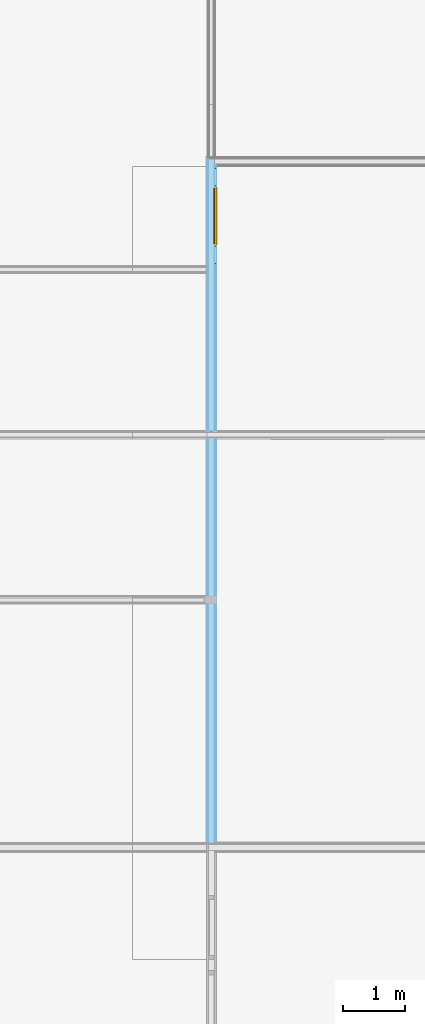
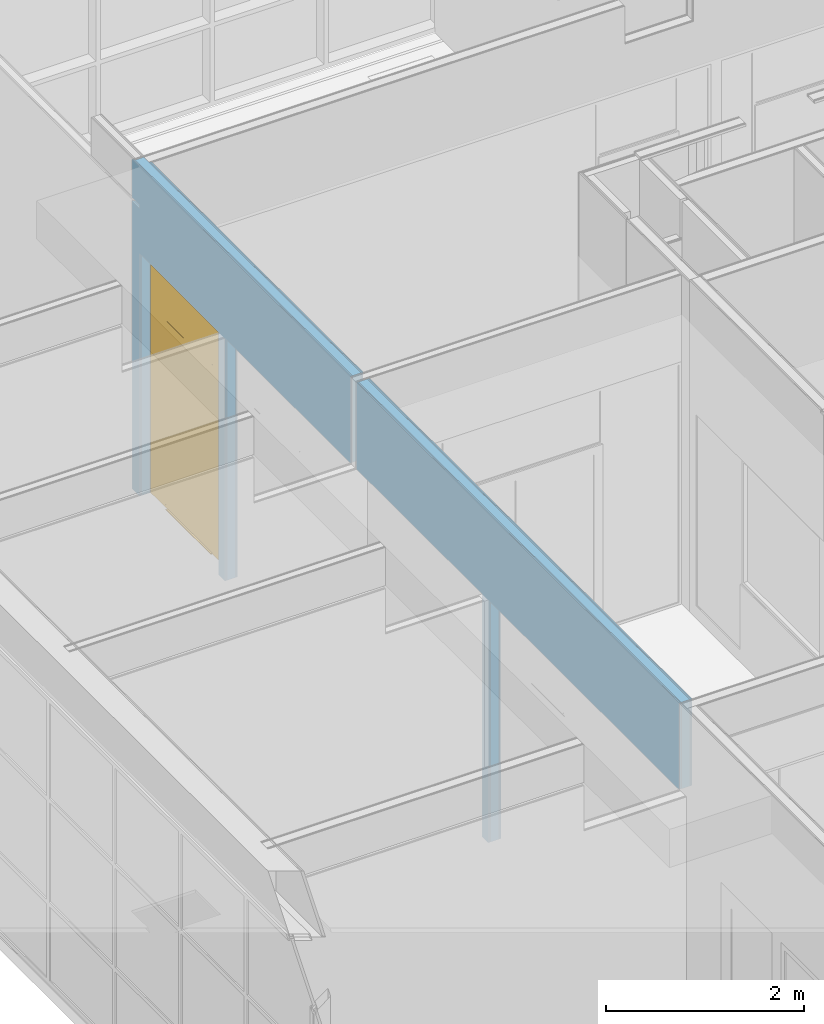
# One storey, part 38 of 109: 1 door, 4 openings, 1 element without a shape of its own, plus 5 elements that do not belong to this part.
"""IFC2X3 building model written with IfcOpenShell, lengths in millimetres."""

from ifc_helpers import new_model, entity, si_unit, converted_unit, derived_unit, money_unit, direction, frame, origin_with_axes, place, context, subcontext, project, spatial, open_shell, faceted_brep, surface_model, material, type_object, element, fill, aggregate, save


model = new_model("IFC2X3")

# Units and contexts
model_context = context("Model", 3, precision=0.01, world=origin_with_axes(), true_north=direction((0.0, 1.0)))
body_context = subcontext(model_context, "Body", "Model", "MODEL_VIEW")
ifc_project = project(units=[si_unit("LENGTHUNIT", "METRE", prefix="MILLI"), si_unit("AREAUNIT", "SQUARE_METRE"), si_unit("VOLUMEUNIT", "CUBIC_METRE"), converted_unit("PLANEANGLEUNIT", "DEGREE", entity("IfcPlaneAngleMeasure", 0.0174532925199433), si_unit("PLANEANGLEUNIT", "RADIAN"), dimensions=[0, 0, 0, 0, 0, 0, 0]), money_unit("EUR"), converted_unit("TIMEUNIT", "Year", entity("IfcTimeMeasure", 31557600.0), si_unit("TIMEUNIT", "SECOND"), dimensions=[0, 0, 1, 0, 0, 0, 0]), si_unit("MASSUNIT", "GRAM", prefix="KILO"), si_unit("THERMODYNAMICTEMPERATUREUNIT", "DEGREE_CELSIUS"), si_unit("LUMINOUSINTENSITYUNIT", "LUMEN"), si_unit("ENERGYUNIT", "JOULE", prefix="MEGA"), derived_unit("THERMALCONDUCTANCEUNIT", [(si_unit("POWERUNIT", "WATT"), 1), (si_unit("LENGTHUNIT", "METRE"), -1), (si_unit("THERMODYNAMICTEMPERATUREUNIT", "KELVIN"), -1)]), derived_unit("SPECIFICHEATCAPACITYUNIT", [(si_unit("ENERGYUNIT", "JOULE"), 1), (si_unit("MASSUNIT", "GRAM", prefix="KILO"), -1), (si_unit("THERMODYNAMICTEMPERATUREUNIT", "KELVIN"), -1)]), derived_unit("MASSDENSITYUNIT", [(si_unit("MASSUNIT", "GRAM", prefix="KILO"), 1), (si_unit("VOLUMEUNIT", "CUBIC_METRE"), -1)])], contexts=[model_context])

# Site, building, storey
site_placement = place(None, origin_with_axes())
site = spatial("IfcSite", under=ifc_project, at=site_placement, Name="<site naam>", CompositionType="ELEMENT")
building_placement = place(site_placement, origin_with_axes())
building = spatial("IfcBuilding", under=site, at=building_placement, Name="<Naam gebouw>", CompositionType="ELEMENT")
storey_placement = place(building_placement, origin_with_axes())
storey = spatial("IfcBuildingStorey", under=building, at=storey_placement, Name="00 Begane grond", CompositionType="ELEMENT", Elevation=0.0)

# Door
door_style = type_object("IfcDoorStyle", Name="D1 bl zl2 27", ConstructionType="NOTDEFINED", OperationType="USERDEFINED", ParameterTakesPrecedence=False, Sizeable=False)
wall_placement = place(storey_placement, frame((-3999.999999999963, 8075.000000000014, 0.0), z_axis=(0.0, 0.0, 1.0), x_axis=(0.0, 1.0, 0.0)))
opening_4_placement = place(wall_placement, frame((10122.91666666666, 0.0, 0.0), z_axis=(0.0, 0.0, 1.0), x_axis=(1.0, 0.0, 0.0)))
door_placement = place(opening_4_placement, frame((802.0833333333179, 0.0, 0.0), z_axis=(0.0, 0.0, 1.0), x_axis=(-1.0, 0.0, 0.0)))
door = element("IfcDoor", 1, at=door_placement, inside=storey, type_object=door_style, Name="22_BI-F-03_305", ObjectType="DOOR", OverallHeight=3000.0, OverallWidth=1604.17, context=body_context, shape_type="SurfaceModel", body=[
    faceted_brep([(335.1003012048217, 35.00000000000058, 0.0), (335.1003012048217, 35.00000000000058, 12.0), (352.1003012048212, 35.00000000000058, 12.0), (352.1003012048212, 35.00000000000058, 0.0), (1269.100301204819, 35.00000000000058, 0.0), (1269.100301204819, 35.00000000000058, 12.0), (1252.10030120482, 35.00000000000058, 12.0), (1252.10030120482, 55.0000000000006, 12.0), (352.1003012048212, 55.0000000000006, 12.0), (352.1003012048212, 55.0000000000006, 0.0), (1252.10030120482, 55.0000000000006, 0.0), (1252.10030120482, 35.00000000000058, 0.0)], [[[0, 1, 2, 3]], [[4, 5, 1, 0]], [[1, 5, 6, 7, 8, 2]], [[3, 2, 8, 9]], [[0, 3, 9, 10, 11, 4]], [[11, 6, 5, 4]], [[10, 7, 6, 11]], [[9, 8, 7, 10]]]),
    faceted_brep([(0.0, 75.00000000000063, 0.0), (33.00000000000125, 75.00000000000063, 0.0), (33.00000000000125, 55.0000000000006, 0.0), (0.0, 55.0000000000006, 0.0), (0.0, 75.00000000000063, 2967.0), (33.00000000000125, 75.00000000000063, 2967.0), (33.00000000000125, 75.00000000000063, 33.0), (33.00000000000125, 55.0000000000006, 33.0), (33.00000000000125, 55.0000000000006, 2967.0), (0.0, 55.0000000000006, 2967.0)], [[[0, 1, 2, 3]], [[0, 4, 5, 6, 1]], [[1, 6, 7, 2]], [[3, 2, 7, 8, 9]], [[4, 0, 3, 9]], [[5, 4, 9, 8]], [[6, 5, 8, 7]]]),
    faceted_brep([(335.1003012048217, 55.0000000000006, 0.0), (335.1003012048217, 55.0000000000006, 2317.0), (352.1003012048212, 55.0000000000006, 2317.0), (352.1003012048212, 55.0000000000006, 2333.0), (352.1003012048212, 55.0000000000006, 2967.0), (310.1003012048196, 55.0000000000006, 2967.0), (310.1003012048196, 55.0000000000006, 32.99999999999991), (310.1003012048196, 55.0000000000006, 0.0), (335.1003012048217, 75.00000000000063, 0.0), (335.1003012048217, 75.00000000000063, 2317.0), (352.1003012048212, 75.00000000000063, 2317.0), (352.1003012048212, 75.00000000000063, 2333.0), (352.1003012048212, 75.00000000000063, 2967.0), (310.1003012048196, 75.00000000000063, 2967.0), (310.1003012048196, 75.00000000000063, 32.99999999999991), (310.1003012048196, 75.00000000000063, 0.0)], [[[0, 1, 2, 3, 4, 5, 6, 7]], [[1, 0, 8, 9]], [[10, 2, 1, 9]], [[2, 10, 11, 3]], [[12, 4, 3, 11]], [[13, 5, 4, 12]], [[14, 6, 5, 13]], [[15, 7, 6, 14]], [[8, 0, 7, 15]], [[9, 8, 15, 14, 13, 12, 11, 10]]]),
    faceted_brep([(33.00000000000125, 75.00000000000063, 33.0), (33.00000000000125, 75.00000000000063, 0.0), (33.00000000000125, 55.0000000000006, 0.0), (33.00000000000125, 55.0000000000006, 33.0), (310.1003012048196, 75.00000000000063, 33.0), (310.1003012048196, 75.00000000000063, 0.0), (310.1003012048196, 55.0000000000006, 0.0), (310.1003012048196, 55.0000000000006, 33.0)], [[[0, 1, 2, 3]], [[0, 4, 5, 1]], [[1, 5, 6, 2]], [[3, 2, 6, 7]], [[4, 0, 3, 7]], [[5, 4, 7, 6]]]),
    faceted_brep([(1604.166666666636, 75.00000000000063, 0.0), (1604.166666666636, 75.00000000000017, 2967.0), (1604.166666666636, 55.00000000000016, 2967.0), (1604.166666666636, 55.0000000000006, 0.0), (1571.166666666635, 75.00000000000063, 0.0), (1571.166666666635, 75.00000000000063, 33.0), (1571.166666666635, 75.00000000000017, 2967.0), (1571.166666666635, 55.00000000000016, 2967.0), (1571.166666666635, 55.0000000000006, 33.0), (1571.166666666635, 55.0000000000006, 0.0)], [[[0, 1, 2, 3]], [[0, 4, 5, 6, 1]], [[1, 6, 7, 2]], [[3, 2, 7, 8, 9]], [[4, 0, 3, 9]], [[5, 4, 9, 8]], [[6, 5, 8, 7]]]),
    faceted_brep([(1269.100301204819, 55.0000000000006, 2317.0), (1269.100301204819, 55.0000000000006, 0.0), (1294.100301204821, 55.0000000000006, 0.0), (1294.100301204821, 55.0000000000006, 32.99999999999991), (1294.100301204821, 55.00000000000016, 2967.0), (1252.10030120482, 55.00000000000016, 2967.0), (1252.10030120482, 55.0000000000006, 2333.0), (1252.10030120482, 55.0000000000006, 2317.0), (1269.100301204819, 75.00000000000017, 2317.0), (1269.100301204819, 75.00000000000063, 0.0), (1294.100301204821, 75.00000000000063, 0.0), (1294.100301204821, 75.00000000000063, 32.99999999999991), (1294.100301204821, 75.00000000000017, 2967.0), (1252.10030120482, 75.00000000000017, 2967.0), (1252.10030120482, 75.00000000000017, 2333.0), (1252.10030120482, 75.00000000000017, 2317.0)], [[[0, 1, 2, 3, 4, 5, 6, 7]], [[1, 0, 8, 9]], [[1, 9, 10, 2]], [[11, 3, 2, 10]], [[12, 4, 3, 11]], [[13, 5, 4, 12]], [[14, 6, 5, 13]], [[15, 7, 6, 14]], [[0, 7, 15, 8]], [[8, 15, 14, 13, 12, 11, 10, 9]]]),
    faceted_brep([(1294.100301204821, 75.00000000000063, 33.0), (1294.100301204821, 75.00000000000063, 0.0), (1294.100301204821, 55.0000000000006, 0.0), (1294.100301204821, 55.0000000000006, 33.0), (1571.166666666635, 75.00000000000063, 33.0), (1571.166666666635, 75.00000000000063, 0.0), (1571.166666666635, 55.0000000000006, 0.0), (1571.166666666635, 55.0000000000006, 33.0)], [[[0, 1, 2, 3]], [[0, 4, 5, 1]], [[1, 5, 6, 2]], [[3, 2, 6, 7]], [[4, 0, 3, 7]], [[5, 4, 7, 6]]]),
    faceted_brep([(0.0, 75.00000000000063, 3000.0), (0.0, 75.00000000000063, 2967.0), (0.0, 55.0000000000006, 2967.0), (0.0, 55.0000000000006, 3000.0), (1604.166666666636, 75.00000000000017, 3000.0), (1604.166666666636, 75.00000000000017, 2967.0), (1571.166666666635, 75.00000000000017, 2967.0), (1294.100301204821, 75.00000000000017, 2967.0), (1252.10030120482, 75.00000000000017, 2967.0), (352.1003012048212, 75.00000000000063, 2967.0), (310.1003012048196, 75.00000000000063, 2967.0), (33.00000000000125, 75.00000000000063, 2967.0), (33.00000000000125, 55.0000000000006, 2967.0), (310.1003012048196, 55.0000000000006, 2967.0), (352.1003012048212, 55.0000000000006, 2967.0), (1252.10030120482, 55.00000000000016, 2967.0), (1294.100301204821, 55.00000000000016, 2967.0), (1571.166666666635, 55.00000000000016, 2967.0), (1604.166666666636, 55.00000000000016, 2967.0), (1604.166666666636, 55.00000000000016, 3000.0)], [[[0, 1, 2, 3]], [[0, 4, 5, 6, 7, 8, 9, 10, 11, 1]], [[1, 11, 12, 2]], [[3, 2, 12, 13, 14, 15, 16, 17, 18, 19]], [[4, 0, 3, 19]], [[5, 4, 19, 18]], [[6, 5, 18, 17]], [[7, 6, 17, 16]], [[8, 7, 16, 15]], [[9, 8, 15, 14]], [[10, 9, 14, 13]], [[11, 10, 13, 12]]]),
    faceted_brep([(352.1003012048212, 55.0000000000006, 2317.0), (1252.10030120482, 55.0000000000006, 2317.0), (1252.10030120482, 55.0000000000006, 2333.0), (352.1003012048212, 55.0000000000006, 2333.0), (1252.10030120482, 75.00000000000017, 2317.0), (352.1003012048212, 75.00000000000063, 2317.0), (1252.10030120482, 75.00000000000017, 2333.0), (352.1003012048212, 75.00000000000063, 2333.0)], [[[0, 1, 2, 3]], [[4, 1, 0, 5]], [[1, 4, 6, 2]], [[7, 3, 2, 6]], [[5, 0, 3, 7]], [[4, 5, 7, 6]]]),
    faceted_brep([(1269.100301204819, 93.00000000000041, 0.0), (1269.100301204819, 53.00000000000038, 0.0), (335.1003012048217, 53.00000000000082, 0.0), (335.1003012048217, 93.00000000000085, 0.0), (1269.100301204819, 93.00000000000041, 2317.0), (1269.100301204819, 53.00000000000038, 2317.0), (335.1003012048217, 53.00000000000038, 2317.0), (335.1003012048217, 93.00000000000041, 2317.0)], [[[0, 1, 2, 3]], [[4, 5, 1, 0]], [[1, 5, 6, 2]], [[3, 2, 6, 7]], [[0, 3, 7, 4]], [[7, 6, 5, 4]]]),
    surface_model("IfcShellBasedSurfaceModel", [(352.1003012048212, 49.00000000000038, 2333.0), (1252.10030120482, 49.00000000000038, 2333.0), (1252.10030120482, 49.00000000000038, 2967.0), (352.1003012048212, 49.00000000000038, 2967.0)], [open_shell([[[0, 1, 2, 3]]])]),
    surface_model("IfcShellBasedSurfaceModel", [(352.1003012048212, 61.00000000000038, 2333.0), (352.1003012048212, 61.00000000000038, 2967.0), (1252.10030120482, 61.00000000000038, 2967.0), (1252.10030120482, 61.00000000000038, 2333.0)], [open_shell([[[0, 1, 2, 3]]])]),
    surface_model("IfcShellBasedSurfaceModel", [(33.00000000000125, 49.00000000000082, 33.0), (310.1003012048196, 49.00000000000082, 33.0), (310.1003012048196, 49.00000000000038, 2967.0), (33.00000000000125, 49.00000000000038, 2967.0)], [open_shell([[[0, 1, 2, 3]]])]),
    surface_model("IfcShellBasedSurfaceModel", [(33.00000000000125, 61.00000000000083, 33.0), (33.00000000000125, 61.00000000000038, 2967.0), (310.1003012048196, 61.00000000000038, 2967.0), (310.1003012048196, 61.00000000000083, 33.0)], [open_shell([[[0, 1, 2, 3]]])]),
    surface_model("IfcShellBasedSurfaceModel", [(1294.100301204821, 49.00000000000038, 33.0), (1571.166666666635, 49.00000000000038, 33.0), (1571.166666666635, 49.00000000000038, 2967.0), (1294.100301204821, 49.00000000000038, 2967.0)], [open_shell([[[0, 1, 2, 3]]])]),
    surface_model("IfcShellBasedSurfaceModel", [(1294.100301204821, 61.00000000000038, 33.0), (1294.100301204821, 61.00000000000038, 2967.0), (1571.166666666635, 61.00000000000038, 2967.0), (1571.166666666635, 61.00000000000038, 33.0)], [open_shell([[[0, 1, 2, 3]]])]),
])

# Wall, openings
wall_type = type_object("IfcWallType", Name="MS-01 GF 150 ECO DGS/2.100.2.A 150", PredefinedType="NOTDEFINED")
wall = element("IfcWall", 2, at=wall_placement, inside=storey, type_object=wall_type, Name="22_Binnenwand_MS-01")
opening_1_placement = place(wall_placement, frame((5258.333333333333, 0.0, 0.0), z_axis=(0.0, 0.0, 1.0), x_axis=(1.0, 0.0, 0.0)))
element("IfcOpeningElement", 3, at=opening_1_placement, cuts=wall, Name="22_BI-F-02 sp_305", context=body_context, shape_type="Brep", body=[
    faceted_brep([(1270.833333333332, 76.00000000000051, 3000.0), (1270.833333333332, 76.00000000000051, 0.0), (-1270.833333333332, 76.00000000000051, 0.0), (-1270.833333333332, 76.00000000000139, 3000.0), (1270.833333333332, -76.00000000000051, 3000.0), (1270.833333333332, -76.00000000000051, 0.0), (-1270.833333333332, -76.00000000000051, 0.0), (-1270.833333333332, -75.99999999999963, 3000.0)], [[[0, 1, 2, 3]], [[4, 5, 1, 0]], [[5, 6, 2, 1]], [[6, 7, 3, 2]], [[7, 4, 0, 3]], [[6, 5, 4, 7]]]),
])
opening_2_placement = place(wall_placement, frame((7925.000000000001, 0.0, 0.0), z_axis=(0.0, 0.0, 1.0), x_axis=(1.0, 0.0, 0.0)))
element("IfcOpeningElement", 4, at=opening_2_placement, cuts=wall, Name="22_BI-F-02_305", context=body_context, shape_type="Brep", body=[
    faceted_brep([(1270.833333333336, 76.00000000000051, 3000.0), (1270.833333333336, 76.00000000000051, 0.0), (-1270.833333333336, 76.00000000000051, 0.0), (-1270.833333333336, 76.00000000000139, 3000.0), (1270.833333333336, -76.00000000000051, 3000.0), (1270.833333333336, -76.00000000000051, 0.0), (-1270.833333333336, -76.00000000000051, 0.0), (-1270.833333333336, -75.99999999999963, 3000.0)], [[[0, 1, 2, 3]], [[4, 5, 1, 0]], [[5, 6, 2, 1]], [[6, 7, 3, 2]], [[7, 4, 0, 3]], [[6, 5, 4, 7]]]),
])
opening_3_placement = place(wall_placement, frame((1931.25, 0.0, 0.0), z_axis=(0.0, 0.0, 1.0), x_axis=(1.0, 0.0, 0.0)))
element("IfcOpeningElement", 5, at=opening_3_placement, cuts=wall, Name="22_BI-F-01_305", context=body_context, shape_type="Brep", body=[
    faceted_brep([(1931.25, 76.00000000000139, 3000.0), (1931.25, 76.00000000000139, 0.0), (-1931.25, 76.00000000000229, 0.0), (-1931.25, 76.00000000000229, 3000.0), (1931.25, -76.00000000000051, 3000.0), (1931.25, -76.00000000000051, 0.0), (-1931.25, -75.99999999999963, 0.0), (-1931.25, -75.99999999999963, 3000.0)], [[[0, 1, 2, 3]], [[4, 5, 1, 0]], [[5, 6, 2, 1]], [[6, 7, 3, 2]], [[7, 4, 0, 3]], [[6, 5, 4, 7]]]),
])
opening_4 = element("IfcOpeningElement", 6, at=opening_4_placement, cuts=wall, Name="22_BI-F-03_305", context=body_context, shape_type="Brep", body=[
    faceted_brep([(802.0833333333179, 76.00000000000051, 3000.0), (802.0833333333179, 76.00000000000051, 0.0), (-802.0833333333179, 76.00000000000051, 0.0), (-802.0833333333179, 76.00000000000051, 3000.0), (802.0833333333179, -76.00000000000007, 3000.0), (802.0833333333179, -76.00000000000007, 0.0), (-802.0833333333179, -76.00000000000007, 0.0), (-802.0833333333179, -76.00000000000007, 3000.0)], [[[0, 1, 2, 3]], [[4, 5, 1, 0]], [[5, 6, 2, 1]], [[6, 7, 3, 2]], [[7, 4, 0, 3]], [[6, 5, 4, 7]]]),
])

fill(opening_4, door)

# Building element part
ifc_material_1 = material(Name="gipsplaat")
building_element_part_1_placement = place(wall_placement, origin_with_axes())
building_element_part_1 = element("IfcBuildingElementPart", 7, at=building_element_part_1_placement, material=ifc_material_1, Name="gipsplaat", context=body_context, shape_type="Brep", body=[
    faceted_brep([(11062.49999999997, 49.99999999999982, 3560.0), (10925.0000001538, 49.99999999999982, 3560.0), (10925.0000001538, 49.99999999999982, 3600.0), (11062.49999999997, 49.99999999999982, 3600.0), (11062.49999999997, 49.99999999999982, 4070.0), (6654.166666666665, 49.99999999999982, 4070.0), (6654.166666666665, 49.99999999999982, 3.000000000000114), (9195.833333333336, 49.99999999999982, 3.000000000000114), (9195.833333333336, 49.99999999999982, 0.0), (9320.833333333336, 49.99999999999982, 0.0), (9320.833333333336, 49.99999999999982, 3.000000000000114), (10925.00004530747, 49.99999999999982, 3.000000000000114), (10925.00004530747, 49.99999999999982, 0.0), (11062.49999999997, 49.99999999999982, 0.0), (10925.00000013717, 62.5, 3560.0), (11062.49999999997, 62.5, 3560.0), (10925.00000013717, 62.5, 3600.0), (11062.49999999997, 62.5, 3600.0), (11062.49999999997, 62.5, 4070.0), (6654.166666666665, 62.5, 4070.0), (6654.166666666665, 62.5, 3.000000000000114), (9195.833333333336, 62.5, 3.000000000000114), (9195.833333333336, 62.5, 0.0), (9320.833333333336, 62.5, 0.0), (9320.833333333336, 62.5, 3.000000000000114), (10925.00004530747, 62.5, 3.000000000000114), (10925.00004530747, 62.5, 0.0), (11062.49999999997, 62.5, 0.0)], [[[0, 1, 2, 3, 4, 5, 6, 7, 8, 9, 10, 11, 12, 13]], [[14, 1, 0, 15]], [[16, 2, 1, 14]], [[16, 17, 3, 2]], [[4, 3, 17, 18]], [[5, 4, 18, 19]], [[19, 20, 6, 5]], [[21, 7, 6, 20]], [[22, 8, 7, 21]], [[22, 23, 9, 8]], [[24, 10, 9, 23]], [[25, 11, 10, 24]], [[26, 12, 11, 25]], [[13, 12, 26, 27]], [[27, 15, 0, 13]], [[16, 14, 15, 27, 26, 25, 24, 23, 22, 21, 20, 19, 18, 17]]]),
    faceted_brep([(0.0, 49.99999999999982, 3.000000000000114), (3862.500000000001, 49.99999999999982, 3.000000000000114), (3862.500000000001, 49.99999999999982, 0.0), (3987.500000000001, 49.99999999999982, 0.0), (3987.500000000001, 49.99999999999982, 3.000000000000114), (6529.166666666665, 49.99999999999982, 3.000000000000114), (6529.166666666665, 49.99999999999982, 4070.0), (0.0, 49.99999999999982, 4070.0), (3862.500000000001, 62.5, 3.000000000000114), (0.0, 62.5, 3.000000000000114), (3862.500000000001, 62.5, 0.0), (3987.500000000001, 62.5, 0.0), (3987.500000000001, 62.5, 3.000000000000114), (6529.166666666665, 62.5, 3.000000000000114), (6529.166666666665, 62.5, 4070.0), (0.0, 62.5, 4070.0)], [[[0, 1, 2, 3, 4, 5, 6, 7]], [[8, 1, 0, 9]], [[10, 2, 1, 8]], [[3, 2, 10, 11]], [[12, 4, 3, 11]], [[12, 13, 5, 4]], [[6, 5, 13, 14]], [[7, 6, 14, 15]], [[15, 9, 0, 7]], [[10, 8, 9, 15, 14, 13, 12, 11]]]),
])

building_element_part_2_placement = place(wall_placement, origin_with_axes())
building_element_part_2 = element("IfcBuildingElementPart", 8, at=building_element_part_2_placement, material=ifc_material_1, Name="gipsplaat", context=body_context, shape_type="Brep", body=[
    faceted_brep([(10949.99999999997, -62.5, 3560.0), (10925.00000030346, -62.5, 3560.0), (10925.00000030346, -62.5, 3600.0), (10949.99999999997, -62.5, 3600.0), (10949.99999999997, -62.5, 4070.0), (6654.166666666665, -62.5, 4070.0), (6654.166666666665, -62.5, 3.000000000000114), (9195.833333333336, -62.5, 3.000000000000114), (9195.833333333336, -62.5, 0.0), (9320.833333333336, -62.5, 0.0), (9320.833333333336, -62.5, 3.000000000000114), (10925.00004530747, -62.5, 3.000000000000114), (10925.00004530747, -62.5, 0.0), (10949.99999999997, -62.5, 0.0), (10925.00000028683, -49.99999999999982, 3560.0), (10949.99999999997, -49.99999999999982, 3560.0), (10925.00000028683, -49.99999999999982, 3600.0), (10949.99999999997, -49.99999999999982, 3600.0), (10949.99999999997, -49.99999999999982, 4070.0), (6654.166666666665, -49.99999999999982, 4070.0), (6654.166666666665, -49.99999999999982, 3.000000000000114), (9195.833333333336, -49.99999999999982, 3.000000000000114), (9195.833333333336, -49.99999999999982, 0.0), (9320.833333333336, -49.99999999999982, 0.0), (9320.833333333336, -49.99999999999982, 3.000000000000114), (10925.00004530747, -49.99999999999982, 3.000000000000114), (10925.00004530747, -49.99999999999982, 0.0), (10949.99999999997, -49.99999999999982, 0.0)], [[[0, 1, 2, 3, 4, 5, 6, 7, 8, 9, 10, 11, 12, 13]], [[14, 1, 0, 15]], [[16, 2, 1, 14]], [[16, 17, 3, 2]], [[4, 3, 17, 18]], [[5, 4, 18, 19]], [[19, 20, 6, 5]], [[21, 7, 6, 20]], [[22, 8, 7, 21]], [[22, 23, 9, 8]], [[24, 10, 9, 23]], [[25, 11, 10, 24]], [[26, 12, 11, 25]], [[13, 12, 26, 27]], [[27, 15, 0, 13]], [[16, 14, 15, 27, 26, 25, 24, 23, 22, 21, 20, 19, 18, 17]]]),
    faceted_brep([(0.0, -62.5, 3.000000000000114), (3862.500000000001, -62.5, 3.000000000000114), (3862.500000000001, -62.5, 0.0), (3987.500000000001, -62.5, 0.0), (3987.500000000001, -62.5, 3.000000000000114), (6529.166666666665, -62.5, 3.000000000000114), (6529.166666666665, -62.5, 4070.0), (0.0, -62.5, 4070.0), (3862.500000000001, -49.99999999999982, 3.000000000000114), (0.0, -49.99999999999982, 3.000000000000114), (3862.500000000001, -49.99999999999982, 0.0), (3987.500000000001, -49.99999999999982, 0.0), (3987.500000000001, -49.99999999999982, 3.000000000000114), (6529.166666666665, -49.99999999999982, 3.000000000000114), (6529.166666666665, -49.99999999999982, 4070.0), (0.0, -49.99999999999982, 4070.0)], [[[0, 1, 2, 3, 4, 5, 6, 7]], [[8, 1, 0, 9]], [[10, 2, 1, 8]], [[3, 2, 10, 11]], [[12, 4, 3, 11]], [[12, 13, 5, 4]], [[6, 5, 13, 14]], [[7, 6, 14, 15]], [[15, 9, 0, 7]], [[10, 8, 9, 15, 14, 13, 12, 11]]]),
])

ifc_material_2 = material(Name="isolatie_steenwol LSW")
building_element_part_3_placement = place(wall_placement, origin_with_axes())
building_element_part_3 = element("IfcBuildingElementPart", 9, at=building_element_part_3_placement, material=ifc_material_2, Name="isolatie_steenwol LSW", context=body_context, shape_type="Brep", body=[
    faceted_brep([(11049.99999999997, -49.99999999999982, 3560.0), (10925.00000028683, -49.99999999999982, 3560.0), (10925.00000028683, -49.99999999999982, 3600.0), (11049.99999999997, -49.99999999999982, 3600.0), (11049.99999999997, -49.99999999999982, 4070.0), (6654.166666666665, -49.99999999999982, 4070.0), (6654.166666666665, -49.99999999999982, 3.000000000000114), (9195.833333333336, -49.99999999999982, 3.000000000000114), (9195.833333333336, -49.99999999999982, 0.0), (9320.833333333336, -49.99999999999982, 0.0), (9320.833333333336, -49.99999999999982, 3.000000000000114), (10925.00004530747, -49.99999999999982, 3.000000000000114), (10925.00004530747, -49.99999999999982, 0.0), (11049.99999999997, -49.99999999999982, 0.0), (10925.0000001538, 49.99999999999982, 3560.0), (11049.99999999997, 49.99999999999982, 3560.0), (10925.0000001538, 49.99999999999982, 3600.0), (11049.99999999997, 49.99999999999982, 3600.0), (11049.99999999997, 49.99999999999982, 4070.0), (6654.166666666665, 49.99999999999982, 4070.0), (6654.166666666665, 49.99999999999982, 3.000000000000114), (9195.833333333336, 49.99999999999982, 3.000000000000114), (9195.833333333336, 49.99999999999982, 0.0), (9320.833333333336, 49.99999999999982, 0.0), (9320.833333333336, 49.99999999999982, 3.000000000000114), (10925.00004530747, 49.99999999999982, 3.000000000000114), (10925.00004530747, 49.99999999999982, 0.0), (11049.99999999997, 49.99999999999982, 0.0)], [[[0, 1, 2, 3, 4, 5, 6, 7, 8, 9, 10, 11, 12, 13]], [[14, 1, 0, 15]], [[16, 2, 1, 14]], [[16, 17, 3, 2]], [[4, 3, 17, 18]], [[5, 4, 18, 19]], [[19, 20, 6, 5]], [[21, 7, 6, 20]], [[22, 8, 7, 21]], [[22, 23, 9, 8]], [[24, 10, 9, 23]], [[25, 11, 10, 24]], [[26, 12, 11, 25]], [[13, 12, 26, 27]], [[27, 15, 0, 13]], [[16, 14, 15, 27, 26, 25, 24, 23, 22, 21, 20, 19, 18, 17]]]),
    faceted_brep([(0.0, -49.99999999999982, 3.000000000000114), (3862.500000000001, -49.99999999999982, 3.000000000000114), (3862.500000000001, -49.99999999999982, 0.0), (3987.500000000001, -49.99999999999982, 0.0), (3987.500000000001, -49.99999999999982, 3.000000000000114), (6529.166666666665, -49.99999999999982, 3.000000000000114), (6529.166666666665, -49.99999999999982, 4070.0), (0.0, -49.99999999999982, 4070.0), (3862.500000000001, 49.99999999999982, 3.000000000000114), (0.0, 49.99999999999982, 3.000000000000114), (3862.500000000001, 49.99999999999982, 0.0), (3987.500000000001, 49.99999999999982, 0.0), (3987.500000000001, 49.99999999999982, 3.000000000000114), (6529.166666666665, 49.99999999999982, 3.000000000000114), (6529.166666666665, 49.99999999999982, 4070.0), (0.0, 49.99999999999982, 4070.0)], [[[0, 1, 2, 3, 4, 5, 6, 7]], [[8, 1, 0, 9]], [[10, 2, 1, 8]], [[3, 2, 10, 11]], [[12, 4, 3, 11]], [[12, 13, 5, 4]], [[6, 5, 13, 14]], [[7, 6, 14, 15]], [[15, 9, 0, 7]], [[10, 8, 9, 15, 14, 13, 12, 11]]]),
])

building_element_part_4_placement = place(wall_placement, origin_with_axes())
building_element_part_4 = element("IfcBuildingElementPart", 10, at=building_element_part_4_placement, material=ifc_material_1, Name="gipsplaat", context=body_context, shape_type="Brep", body=[
    faceted_brep([(10937.49999999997, -75.00000000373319, 3560.0), (10925.00000032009, -75.00000002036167, 3560.0), (10925.00000032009, -75.00000002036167, 3600.0), (10937.49999999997, -75.00000000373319, 3600.0), (10937.49999999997, -74.99999999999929, 4070.0), (6654.166666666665, -74.99999999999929, 4070.0), (6654.166666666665, -74.99999999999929, 3.000000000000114), (9195.833333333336, -74.99999999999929, 3.000000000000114), (9195.833333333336, -74.99999999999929, 0.0), (9320.833333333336, -75.00000535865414, 0.0), (9320.833333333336, -75.00000535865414, 3.000000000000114), (10925.00004530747, -75.00000535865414, 3.000000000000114), (10925.00004530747, -75.00000535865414, 0.0), (10925.01546946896, -75.00000000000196, 0.0), (10925.01546946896, -74.99999999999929, 3.000000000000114), (10937.49999999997, -75.00000000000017, 3.000000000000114), (10925.00000030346, -62.5, 3560.0), (10937.49999999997, -62.5, 3560.0), (10925.00000030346, -62.5, 3600.0), (10937.49999999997, -62.5, 3600.0), (10937.49999999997, -62.5, 4070.0), (6654.166666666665, -62.5, 4070.0), (6654.166666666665, -62.5, 3.000000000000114), (9195.833333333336, -62.5, 3.000000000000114), (9195.833333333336, -62.5, 0.0), (9320.833333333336, -62.50000000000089, 0.0), (9320.833333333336, -62.5, 3.000000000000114), (10925.00004530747, -62.5, 3.000000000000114), (10925.00004530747, -62.50000000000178, 0.0), (10925.01549908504, -62.50000000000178, 0.0), (10925.01549908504, -62.50000000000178, 3.000000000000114), (10937.49999999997, -62.50000000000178, 3.000000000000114)], [[[0, 1, 2, 3, 4, 5, 6, 7, 8, 9, 10, 11, 12, 13, 14, 15]], [[16, 1, 0, 17]], [[18, 2, 1, 16]], [[18, 19, 3, 2]], [[4, 3, 19, 20]], [[5, 4, 20, 21]], [[21, 22, 6, 5]], [[23, 7, 6, 22]], [[24, 8, 7, 23]], [[24, 25, 9, 8]], [[26, 10, 9, 25]], [[27, 11, 10, 26]], [[28, 12, 11, 27]], [[13, 12, 28, 29]], [[30, 14, 13, 29]], [[30, 31, 15, 14]], [[31, 17, 0, 15]], [[18, 16, 17, 31, 30, 29, 28, 27, 26, 25, 24, 23, 22, 21, 20, 19]]]),
    faceted_brep([(0.0, -74.99999999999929, 3.000000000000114), (3862.500000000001, -74.99999999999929, 3.000000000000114), (3862.500000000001, -74.99999999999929, 0.0), (3987.500000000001, -74.99999999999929, 0.0), (3987.500000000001, -74.99999999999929, 3.000000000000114), (6529.166666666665, -74.99999999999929, 3.000000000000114), (6529.166666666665, -74.99999999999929, 4070.0), (0.0, -74.99999999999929, 4070.0), (3862.500000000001, -62.5, 3.000000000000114), (0.0, -62.5, 3.000000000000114), (3862.500000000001, -62.5, 0.0), (3987.500000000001, -62.5, 0.0), (3987.500000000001, -62.5, 3.000000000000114), (6529.166666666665, -62.5, 3.000000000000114), (6529.166666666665, -62.5, 4070.0), (0.0, -62.5, 4070.0)], [[[0, 1, 2, 3, 4, 5, 6, 7]], [[8, 1, 0, 9]], [[10, 2, 1, 8]], [[3, 2, 10, 11]], [[12, 4, 3, 11]], [[12, 13, 5, 4]], [[6, 5, 13, 14]], [[7, 6, 14, 15]], [[15, 9, 0, 7]], [[10, 8, 9, 15, 14, 13, 12, 11]]]),
])

building_element_part_5_placement = place(wall_placement, origin_with_axes())
building_element_part_5 = element("IfcBuildingElementPart", 11, at=building_element_part_5_placement, material=ifc_material_1, Name="gipsplaat", context=body_context, shape_type="Brep", body=[
    faceted_brep([(11074.99999999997, 62.5, 3560.0), (10925.00000013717, 62.5, 3560.0), (10925.00000013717, 62.5, 3600.0), (11074.99999999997, 62.5, 3600.0), (11074.99999999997, 62.5, 4070.0), (6654.166666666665, 62.5, 4070.0), (6654.166666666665, 62.5, 3.000000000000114), (9195.833333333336, 62.5, 3.000000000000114), (9195.833333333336, 62.5, 0.0), (9320.833333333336, 62.5, 0.0), (9320.833333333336, 62.5, 3.000000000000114), (10925.00004530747, 62.5, 3.000000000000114), (10925.00004530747, 62.5, 0.0), (11074.99999999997, 62.5, 0.0), (10925.00000012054, 75.00000000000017, 3560.0), (11074.99999999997, 75.00000000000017, 3560.0), (10925.00000012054, 75.00000000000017, 3600.0), (11074.99999999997, 75.00000000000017, 3600.0), (11074.99999999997, 75.00000000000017, 4070.0), (6654.166666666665, 75.00000000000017, 4070.0), (6654.166666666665, 75.00000000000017, 3.000000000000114), (9195.833333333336, 75.00000000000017, 3.000000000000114), (9195.833333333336, 75.00000000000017, 0.0), (9320.833333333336, 75.00000000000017, 0.0), (9320.833333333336, 75.00000000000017, 3.000000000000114), (10925.00004530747, 75.00000000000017, 3.000000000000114), (10925.00004530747, 75.00000000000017, 0.0), (11074.99999999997, 75.00000000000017, 0.0)], [[[0, 1, 2, 3, 4, 5, 6, 7, 8, 9, 10, 11, 12, 13]], [[14, 1, 0, 15]], [[16, 2, 1, 14]], [[16, 17, 3, 2]], [[4, 3, 17, 18]], [[19, 5, 4, 18]], [[19, 20, 6, 5]], [[21, 7, 6, 20]], [[22, 8, 7, 21]], [[22, 23, 9, 8]], [[24, 10, 9, 23]], [[25, 11, 10, 24]], [[26, 12, 11, 25]], [[13, 12, 26, 27]], [[27, 15, 0, 13]], [[16, 14, 15, 27, 26, 25, 24, 23, 22, 21, 20, 19, 18, 17]]]),
    faceted_brep([(0.0, 62.5, 3.000000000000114), (3862.500000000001, 62.5, 3.000000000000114), (3862.500000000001, 62.5, 0.0), (3987.500000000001, 62.5, 0.0), (3987.500000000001, 62.5, 3.000000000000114), (6529.166666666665, 62.5, 3.000000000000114), (6529.166666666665, 62.5, 4070.0), (0.0, 62.5, 4070.0), (3862.500000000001, 75.00000000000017, 3.000000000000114), (0.0, 75.00000000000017, 3.000000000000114), (3862.500000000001, 75.00000000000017, 0.0), (3987.500000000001, 75.00000000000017, 0.0), (3987.500000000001, 75.00000000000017, 3.000000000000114), (6529.166666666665, 75.00000000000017, 3.000000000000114), (6529.166666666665, 75.00000000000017, 4070.0), (0.0, 75.00000000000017, 4070.0)], [[[0, 1, 2, 3, 4, 5, 6, 7]], [[8, 1, 0, 9]], [[10, 2, 1, 8]], [[3, 2, 10, 11]], [[12, 4, 3, 11]], [[12, 13, 5, 4]], [[6, 5, 13, 14]], [[7, 6, 14, 15]], [[15, 9, 0, 7]], [[10, 8, 9, 15, 14, 13, 12, 11]]]),
])

aggregate(wall, [building_element_part_1, building_element_part_2, building_element_part_3, building_element_part_4, building_element_part_5])

save(model, "model.ifc")
